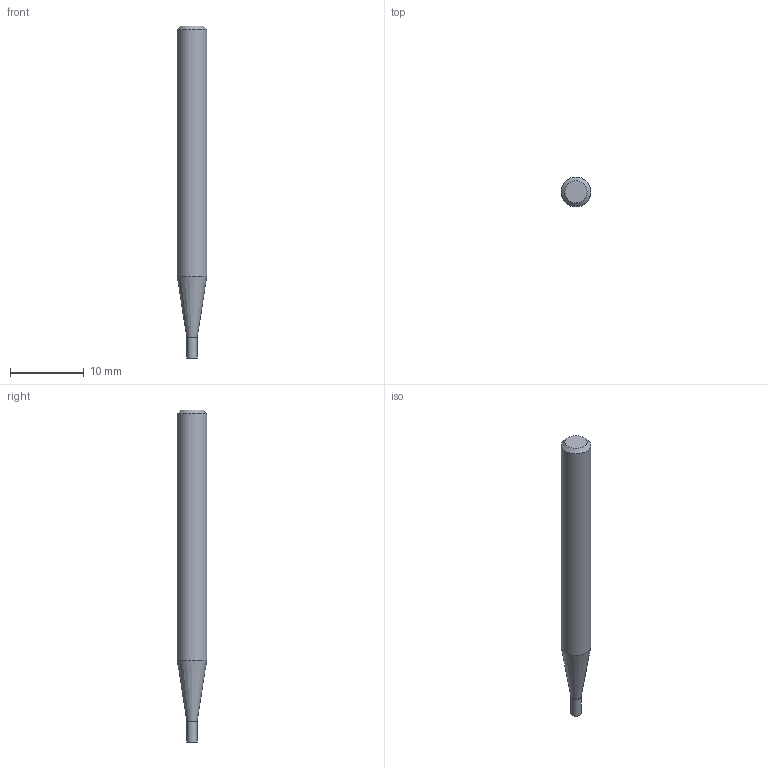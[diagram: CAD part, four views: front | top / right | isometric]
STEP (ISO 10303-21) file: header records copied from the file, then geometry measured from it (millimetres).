
FILE_DESCRIPTION((''),'2;1');
FILE_NAME('C:\Users\nsx150\AppData\Local\Temp\Mastercam 2021\QTW1OOEEGF\TEMP.step','2021-04-08T10:36:23',(''),(''),'STEP Write','Mastercam 2021 ... CNC Software, Inc.','');
FILE_SCHEMA(('AUTOMOTIVE_DESIGN'));
Length unit declared in the file: millimetre
Products named in the file (1): None
Bounding box: 4 x 4 x 45 mm (x, y, z)
Volume: 480.7 mm3; surface area: 523.1 mm2
Topology: 2 solids, 2 shells, 8 faces, 10 edges, 6 vertices
Faces by surface type: plane 4, cylinder 2, cone 2
Full cylindrical faces by diameter (mm): 1.4 x1, 4 x1
Entity records: 190 total; most frequent: DIRECTION 32, CARTESIAN_POINT 22, AXIS2_PLACEMENT_3D 16, ORIENTED_EDGE 12, EDGE_LOOP 12, STYLED_ITEM 11, ADVANCED_FACE 8, VERTEX_POINT 6
